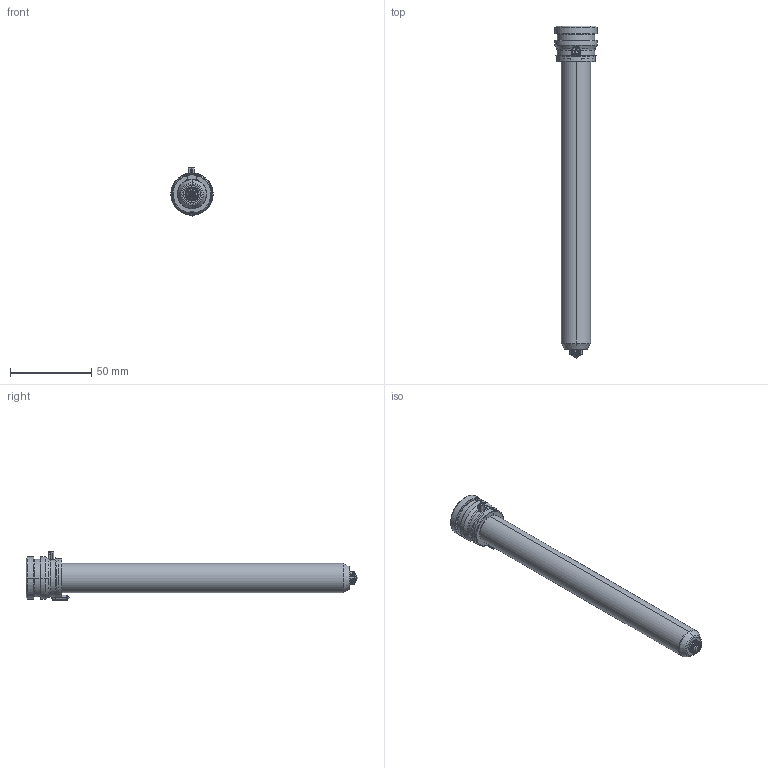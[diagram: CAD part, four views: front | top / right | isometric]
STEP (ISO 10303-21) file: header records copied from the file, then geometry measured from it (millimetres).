
FILE_DESCRIPTION((''),'2;1');
FILE_NAME('TH18186-A-1GLT-PK-JG','2023-12-14T',('umhib'),('Thermoplay S.p.A.'),'PRO/ENGINEER BY PARAMETRIC TECHNOLOGY CORPORATION, 2017170','PRO/ENGINEER BY PARAMETRIC TECHNOLOGY CORPORATION, 2017170','');
FILE_SCHEMA(('CONFIG_CONTROL_DESIGN'));
Length unit declared in the file: millimetre
Products named in the file (1): TH18186-A-1GLT-PK-JG
Bounding box: 26 x 204 x 29.5 mm (x, y, z)
Volume: 40339 mm3; surface area: 29542.5 mm2
Topology: 1 solids, 2 shells, 418 faces, 1085 edges, 675 vertices
Faces by surface type: cylinder 162, plane 90, cone 68, torus 62, bspline 24, sphere 10, extrusion 2
Entity records: 18156 total; most frequent: CARTESIAN_POINT 5879, DIRECTION 2185, ORIENTED_EDGE 2146, EDGE_CURVE 1075, AXIS2_PLACEMENT_3D 885, VERTEX_POINT 675, CIRCLE 492, EDGE_LOOP 443
